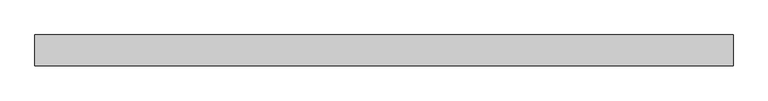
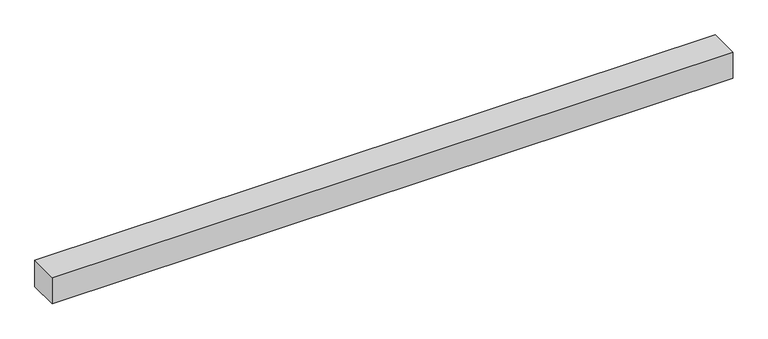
"""IFC4 building model written with IfcOpenShell, lengths in millimetres: light fixture geometry, GENILED_Светильник светодиодный_Trade Linear Advanced : Trade Linear Advanced 1472x65x60 30Вт Deep Черный 4000К."""

from ifc_helpers import new_model, si_unit, frame, origin, place, context, project, spatial, polyline, outline, extrude, source, transform, mapped, element, save


def light_fixture_9e089268(model_context):
    return source(origin(), model_context, "Body", "SweptSolid", [
        extrude(outline(polyline([(736.0, 32.5), (736.0, -32.5), (-736.0, -32.5), (-736.0, 32.5), (736.0, 32.5)])), frame((0.0, 0.0, -60.0), z_axis=(0.0, 0.0, 1.0), x_axis=(1.0, 0.0, 0.0)), (0.0, 0.0, 1.0), 60.0),
    ])


if __name__ == "__main__":
    model = new_model("IFC4")
    model_context = context("Model", 3, world=origin())
    ifc_project = project(units=[si_unit("LENGTHUNIT", "METRE", prefix="MILLI")], contexts=[model_context])
    site = spatial("IfcSite", under=ifc_project)
    building = spatial("IfcBuilding", under=site)
    placement = place(None, origin())
    light_fixture_shape = light_fixture_9e089268(model_context)
    element("IfcLightFixture", 1, ObjectType="GENILED_Светильник светодиодный_Trade Linear Advanced : Trade Linear Advanced 1472x65x60 30Вт Deep Черный 4000К", at=placement, inside=building, context=model_context, shape_type="MappedRepresentation", body=[
        mapped(light_fixture_shape, transform((0.0, 0.0, 0.0), x_axis=(1.0, 0.0, 0.0), y_axis=(0.0, 1.0, 0.0), z_axis=(0.0, 0.0, 1.0))),
    ])
    save(model, "model.ifc")
